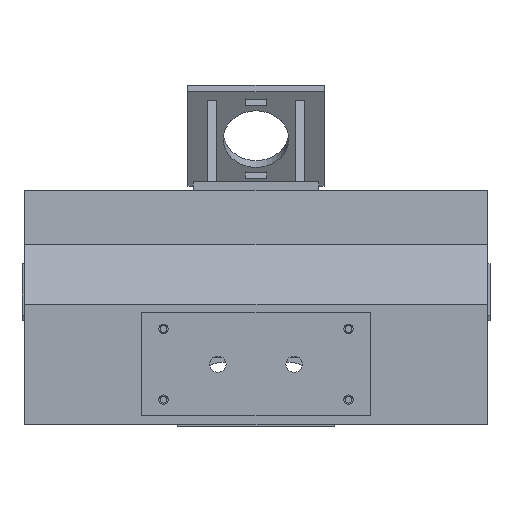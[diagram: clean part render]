
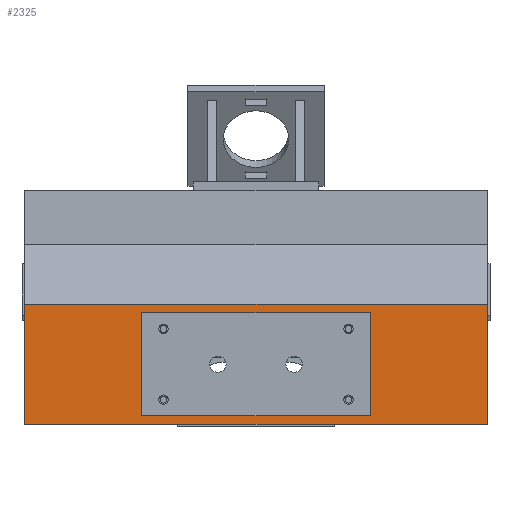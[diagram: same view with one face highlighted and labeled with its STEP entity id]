
A CAD part, left-side view. The second image highlights one B-rep face of the part: STEP entity #2325.
In plain terms, the highlighted planar face has unit normal (-1, 0, 0).
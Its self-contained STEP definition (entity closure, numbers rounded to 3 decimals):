
#68 = VERTEX_POINT('',#69);
#69 = CARTESIAN_POINT('',(-130.,-85.,34.));
#78 = PLANE('',#79);
#79 = AXIS2_PLACEMENT_3D('',#80,#81,#82);
#80 = CARTESIAN_POINT('',(-130.,-85.,34.));
#81 = DIRECTION('',(0.,0.,-1.));
#82 = DIRECTION('',(1.,0.,0.));
#90 = PLANE('',#91);
#91 = AXIS2_PLACEMENT_3D('',#92,#93,#94);
#92 = CARTESIAN_POINT('',(2.199,-85.,72.388));
#93 = DIRECTION('',(-0.,-1.,-0.));
#94 = DIRECTION('',(0.,0.,-1.));
#102 = EDGE_CURVE('',#68,#103,#105,.T.);
#103 = VERTEX_POINT('',#104);
#104 = CARTESIAN_POINT('',(-130.,85.,34.));
#105 = SURFACE_CURVE('',#106,(#110,#117),.PCURVE_S1.);
#106 = LINE('',#107,#108);
#107 = CARTESIAN_POINT('',(-130.,-85.,34.));
#108 = VECTOR('',#109,1.);
#109 = DIRECTION('',(0.,1.,0.));
#110 = PCURVE('',#78,#111);
#111 = DEFINITIONAL_REPRESENTATION('',(#112),#116);
#112 = LINE('',#113,#114);
#113 = CARTESIAN_POINT('',(0.,0.));
#114 = VECTOR('',#115,1.);
#115 = DIRECTION('',(0.,-1.));
#116 = ( GEOMETRIC_REPRESENTATION_CONTEXT(2) 
PARAMETRIC_REPRESENTATION_CONTEXT() REPRESENTATION_CONTEXT('2D SPACE',''
  ) );
#117 = PCURVE('',#118,#123);
#118 = PLANE('',#119);
#119 = AXIS2_PLACEMENT_3D('',#120,#121,#122);
#120 = CARTESIAN_POINT('',(-130.,-85.,78.));
#121 = DIRECTION('',(-1.,0.,0.));
#122 = DIRECTION('',(0.,0.,-1.));
#123 = DEFINITIONAL_REPRESENTATION('',(#124),#128);
#124 = LINE('',#125,#126);
#125 = CARTESIAN_POINT('',(44.,0.));
#126 = VECTOR('',#127,1.);
#127 = DIRECTION('',(0.,-1.));
#128 = ( GEOMETRIC_REPRESENTATION_CONTEXT(2) 
PARAMETRIC_REPRESENTATION_CONTEXT() REPRESENTATION_CONTEXT('2D SPACE',''
  ) );
#146 = PLANE('',#147);
#147 = AXIS2_PLACEMENT_3D('',#148,#149,#150);
#148 = CARTESIAN_POINT('',(2.199,85.,72.388));
#149 = DIRECTION('',(-0.,-1.,-0.));
#150 = DIRECTION('',(0.,0.,-1.));
#292 = VERTEX_POINT('',#293);
#293 = CARTESIAN_POINT('',(-130.,-85.,78.));
#307 = PLANE('',#308);
#308 = AXIS2_PLACEMENT_3D('',#309,#310,#311);
#309 = CARTESIAN_POINT('',(-110.,-85.,100.));
#310 = DIRECTION('',(-0.74,0.,0.673));
#311 = DIRECTION('',(-0.673,0.,-0.74));
#319 = EDGE_CURVE('',#292,#68,#320,.T.);
#320 = SURFACE_CURVE('',#321,(#325,#332),.PCURVE_S1.);
#321 = LINE('',#322,#323);
#322 = CARTESIAN_POINT('',(-130.,-85.,78.));
#323 = VECTOR('',#324,1.);
#324 = DIRECTION('',(0.,0.,-1.));
#325 = PCURVE('',#90,#326);
#326 = DEFINITIONAL_REPRESENTATION('',(#327),#331);
#327 = LINE('',#328,#329);
#328 = CARTESIAN_POINT('',(-5.612,-132.199));
#329 = VECTOR('',#330,1.);
#330 = DIRECTION('',(1.,0.));
#331 = ( GEOMETRIC_REPRESENTATION_CONTEXT(2) 
PARAMETRIC_REPRESENTATION_CONTEXT() REPRESENTATION_CONTEXT('2D SPACE',''
  ) );
#332 = PCURVE('',#118,#333);
#333 = DEFINITIONAL_REPRESENTATION('',(#334),#338);
#334 = LINE('',#335,#336);
#335 = CARTESIAN_POINT('',(0.,-0.));
#336 = VECTOR('',#337,1.);
#337 = DIRECTION('',(1.,0.));
#338 = ( GEOMETRIC_REPRESENTATION_CONTEXT(2) 
PARAMETRIC_REPRESENTATION_CONTEXT() REPRESENTATION_CONTEXT('2D SPACE',''
  ) );
#1197 = PLANE('',#1198);
#1198 = AXIS2_PLACEMENT_3D('',#1199,#1200,#1201);
#1199 = CARTESIAN_POINT('',(-134.,-38.,71.5));
#1200 = DIRECTION('',(0.,0.,1.));
#1201 = DIRECTION('',(1.,0.,-0.));
#1223 = PLANE('',#1224);
#1224 = AXIS2_PLACEMENT_3D('',#1225,#1226,#1227);
#1225 = CARTESIAN_POINT('',(-134.,-38.,40.5));
#1226 = DIRECTION('',(-0.,1.,0.));
#1227 = DIRECTION('',(0.,0.,1.));
#1357 = PLANE('',#1358);
#1358 = AXIS2_PLACEMENT_3D('',#1359,#1360,#1361);
#1359 = CARTESIAN_POINT('',(-134.,-38.,40.5));
#1360 = DIRECTION('',(0.,0.,1.));
#1361 = DIRECTION('',(1.,0.,-0.));
#1542 = PLANE('',#1543);
#1543 = AXIS2_PLACEMENT_3D('',#1544,#1545,#1546);
#1544 = CARTESIAN_POINT('',(-134.,38.,40.5));
#1545 = DIRECTION('',(-0.,1.,0.));
#1546 = DIRECTION('',(0.,0.,1.));
#1958 = VERTEX_POINT('',#1959);
#1959 = CARTESIAN_POINT('',(-130.,85.,78.));
#1980 = EDGE_CURVE('',#1958,#103,#1981,.T.);
#1981 = SURFACE_CURVE('',#1982,(#1986,#1993),.PCURVE_S1.);
#1982 = LINE('',#1983,#1984);
#1983 = CARTESIAN_POINT('',(-130.,85.,78.));
#1984 = VECTOR('',#1985,1.);
#1985 = DIRECTION('',(0.,0.,-1.));
#1986 = PCURVE('',#146,#1987);
#1987 = DEFINITIONAL_REPRESENTATION('',(#1988),#1992);
#1988 = LINE('',#1989,#1990);
#1989 = CARTESIAN_POINT('',(-5.612,-132.199));
#1990 = VECTOR('',#1991,1.);
#1991 = DIRECTION('',(1.,0.));
#1992 = ( GEOMETRIC_REPRESENTATION_CONTEXT(2) 
PARAMETRIC_REPRESENTATION_CONTEXT() REPRESENTATION_CONTEXT('2D SPACE',''
  ) );
#1993 = PCURVE('',#118,#1994);
#1994 = DEFINITIONAL_REPRESENTATION('',(#1995),#1999);
#1995 = LINE('',#1996,#1997);
#1996 = CARTESIAN_POINT('',(0.,-170.));
#1997 = VECTOR('',#1998,1.);
#1998 = DIRECTION('',(1.,0.));
#1999 = ( GEOMETRIC_REPRESENTATION_CONTEXT(2) 
PARAMETRIC_REPRESENTATION_CONTEXT() REPRESENTATION_CONTEXT('2D SPACE',''
  ) );
#2325 = ADVANCED_FACE('',(#2326,#2352),#118,.T.);
#2326 = FACE_BOUND('',#2327,.T.);
#2327 = EDGE_LOOP('',(#2328,#2349,#2350,#2351));
#2328 = ORIENTED_EDGE('',*,*,#2329,.T.);
#2329 = EDGE_CURVE('',#292,#1958,#2330,.T.);
#2330 = SURFACE_CURVE('',#2331,(#2335,#2342),.PCURVE_S1.);
#2331 = LINE('',#2332,#2333);
#2332 = CARTESIAN_POINT('',(-130.,-85.,78.));
#2333 = VECTOR('',#2334,1.);
#2334 = DIRECTION('',(0.,1.,0.));
#2335 = PCURVE('',#118,#2336);
#2336 = DEFINITIONAL_REPRESENTATION('',(#2337),#2341);
#2337 = LINE('',#2338,#2339);
#2338 = CARTESIAN_POINT('',(0.,-0.));
#2339 = VECTOR('',#2340,1.);
#2340 = DIRECTION('',(0.,-1.));
#2341 = ( GEOMETRIC_REPRESENTATION_CONTEXT(2) 
PARAMETRIC_REPRESENTATION_CONTEXT() REPRESENTATION_CONTEXT('2D SPACE',''
  ) );
#2342 = PCURVE('',#307,#2343);
#2343 = DEFINITIONAL_REPRESENTATION('',(#2344),#2348);
#2344 = LINE('',#2345,#2346);
#2345 = CARTESIAN_POINT('',(29.732,0.));
#2346 = VECTOR('',#2347,1.);
#2347 = DIRECTION('',(0.,-1.));
#2348 = ( GEOMETRIC_REPRESENTATION_CONTEXT(2) 
PARAMETRIC_REPRESENTATION_CONTEXT() REPRESENTATION_CONTEXT('2D SPACE',''
  ) );
#2349 = ORIENTED_EDGE('',*,*,#1980,.T.);
#2350 = ORIENTED_EDGE('',*,*,#102,.F.);
#2351 = ORIENTED_EDGE('',*,*,#319,.F.);
#2352 = FACE_BOUND('',#2353,.T.);
#2353 = EDGE_LOOP('',(#2354,#2378,#2400,#2422));
#2354 = ORIENTED_EDGE('',*,*,#2355,.F.);
#2355 = EDGE_CURVE('',#2356,#2358,#2360,.T.);
#2356 = VERTEX_POINT('',#2357);
#2357 = CARTESIAN_POINT('',(-130.,-38.,71.5));
#2358 = VERTEX_POINT('',#2359);
#2359 = CARTESIAN_POINT('',(-130.,38.,71.5));
#2360 = SURFACE_CURVE('',#2361,(#2365,#2372),.PCURVE_S1.);
#2361 = LINE('',#2362,#2363);
#2362 = CARTESIAN_POINT('',(-130.,-61.5,71.5));
#2363 = VECTOR('',#2364,1.);
#2364 = DIRECTION('',(0.,1.,-0.));
#2365 = PCURVE('',#118,#2366);
#2366 = DEFINITIONAL_REPRESENTATION('',(#2367),#2371);
#2367 = LINE('',#2368,#2369);
#2368 = CARTESIAN_POINT('',(6.5,-23.5));
#2369 = VECTOR('',#2370,1.);
#2370 = DIRECTION('',(0.,-1.));
#2371 = ( GEOMETRIC_REPRESENTATION_CONTEXT(2) 
PARAMETRIC_REPRESENTATION_CONTEXT() REPRESENTATION_CONTEXT('2D SPACE',''
  ) );
#2372 = PCURVE('',#1197,#2373);
#2373 = DEFINITIONAL_REPRESENTATION('',(#2374),#2377);
#2374 = B_SPLINE_CURVE_WITH_KNOTS('',1,(#2375,#2376),.UNSPECIFIED.,.F.,
  .F.,(2,2),(23.5,99.5),.PIECEWISE_BEZIER_KNOTS.);
#2375 = CARTESIAN_POINT('',(4.,0.));
#2376 = CARTESIAN_POINT('',(4.,76.));
#2377 = ( GEOMETRIC_REPRESENTATION_CONTEXT(2) 
PARAMETRIC_REPRESENTATION_CONTEXT() REPRESENTATION_CONTEXT('2D SPACE',''
  ) );
#2378 = ORIENTED_EDGE('',*,*,#2379,.T.);
#2379 = EDGE_CURVE('',#2356,#2380,#2382,.T.);
#2380 = VERTEX_POINT('',#2381);
#2381 = CARTESIAN_POINT('',(-130.,-38.,40.5));
#2382 = SURFACE_CURVE('',#2383,(#2387,#2394),.PCURVE_S1.);
#2383 = LINE('',#2384,#2385);
#2384 = CARTESIAN_POINT('',(-130.,-38.,59.25));
#2385 = VECTOR('',#2386,1.);
#2386 = DIRECTION('',(0.,0.,-1.));
#2387 = PCURVE('',#118,#2388);
#2388 = DEFINITIONAL_REPRESENTATION('',(#2389),#2393);
#2389 = LINE('',#2390,#2391);
#2390 = CARTESIAN_POINT('',(18.75,-47.));
#2391 = VECTOR('',#2392,1.);
#2392 = DIRECTION('',(1.,0.));
#2393 = ( GEOMETRIC_REPRESENTATION_CONTEXT(2) 
PARAMETRIC_REPRESENTATION_CONTEXT() REPRESENTATION_CONTEXT('2D SPACE',''
  ) );
#2394 = PCURVE('',#1223,#2395);
#2395 = DEFINITIONAL_REPRESENTATION('',(#2396),#2399);
#2396 = B_SPLINE_CURVE_WITH_KNOTS('',1,(#2397,#2398),.UNSPECIFIED.,.F.,
  .F.,(2,2),(-12.25,18.75),.PIECEWISE_BEZIER_KNOTS.);
#2397 = CARTESIAN_POINT('',(31.,4.));
#2398 = CARTESIAN_POINT('',(0.,4.));
#2399 = ( GEOMETRIC_REPRESENTATION_CONTEXT(2) 
PARAMETRIC_REPRESENTATION_CONTEXT() REPRESENTATION_CONTEXT('2D SPACE',''
  ) );
#2400 = ORIENTED_EDGE('',*,*,#2401,.T.);
#2401 = EDGE_CURVE('',#2380,#2402,#2404,.T.);
#2402 = VERTEX_POINT('',#2403);
#2403 = CARTESIAN_POINT('',(-130.,38.,40.5));
#2404 = SURFACE_CURVE('',#2405,(#2409,#2416),.PCURVE_S1.);
#2405 = LINE('',#2406,#2407);
#2406 = CARTESIAN_POINT('',(-130.,-61.5,40.5));
#2407 = VECTOR('',#2408,1.);
#2408 = DIRECTION('',(0.,1.,-0.));
#2409 = PCURVE('',#118,#2410);
#2410 = DEFINITIONAL_REPRESENTATION('',(#2411),#2415);
#2411 = LINE('',#2412,#2413);
#2412 = CARTESIAN_POINT('',(37.5,-23.5));
#2413 = VECTOR('',#2414,1.);
#2414 = DIRECTION('',(0.,-1.));
#2415 = ( GEOMETRIC_REPRESENTATION_CONTEXT(2) 
PARAMETRIC_REPRESENTATION_CONTEXT() REPRESENTATION_CONTEXT('2D SPACE',''
  ) );
#2416 = PCURVE('',#1357,#2417);
#2417 = DEFINITIONAL_REPRESENTATION('',(#2418),#2421);
#2418 = B_SPLINE_CURVE_WITH_KNOTS('',1,(#2419,#2420),.UNSPECIFIED.,.F.,
  .F.,(2,2),(23.5,99.5),.PIECEWISE_BEZIER_KNOTS.);
#2419 = CARTESIAN_POINT('',(4.,0.));
#2420 = CARTESIAN_POINT('',(4.,76.));
#2421 = ( GEOMETRIC_REPRESENTATION_CONTEXT(2) 
PARAMETRIC_REPRESENTATION_CONTEXT() REPRESENTATION_CONTEXT('2D SPACE',''
  ) );
#2422 = ORIENTED_EDGE('',*,*,#2423,.F.);
#2423 = EDGE_CURVE('',#2358,#2402,#2424,.T.);
#2424 = SURFACE_CURVE('',#2425,(#2429,#2436),.PCURVE_S1.);
#2425 = LINE('',#2426,#2427);
#2426 = CARTESIAN_POINT('',(-130.,38.,59.25));
#2427 = VECTOR('',#2428,1.);
#2428 = DIRECTION('',(0.,0.,-1.));
#2429 = PCURVE('',#118,#2430);
#2430 = DEFINITIONAL_REPRESENTATION('',(#2431),#2435);
#2431 = LINE('',#2432,#2433);
#2432 = CARTESIAN_POINT('',(18.75,-123.));
#2433 = VECTOR('',#2434,1.);
#2434 = DIRECTION('',(1.,0.));
#2435 = ( GEOMETRIC_REPRESENTATION_CONTEXT(2) 
PARAMETRIC_REPRESENTATION_CONTEXT() REPRESENTATION_CONTEXT('2D SPACE',''
  ) );
#2436 = PCURVE('',#1542,#2437);
#2437 = DEFINITIONAL_REPRESENTATION('',(#2438),#2441);
#2438 = B_SPLINE_CURVE_WITH_KNOTS('',1,(#2439,#2440),.UNSPECIFIED.,.F.,
  .F.,(2,2),(-12.25,18.75),.PIECEWISE_BEZIER_KNOTS.);
#2439 = CARTESIAN_POINT('',(31.,4.));
#2440 = CARTESIAN_POINT('',(0.,4.));
#2441 = ( GEOMETRIC_REPRESENTATION_CONTEXT(2) 
PARAMETRIC_REPRESENTATION_CONTEXT() REPRESENTATION_CONTEXT('2D SPACE',''
  ) );
